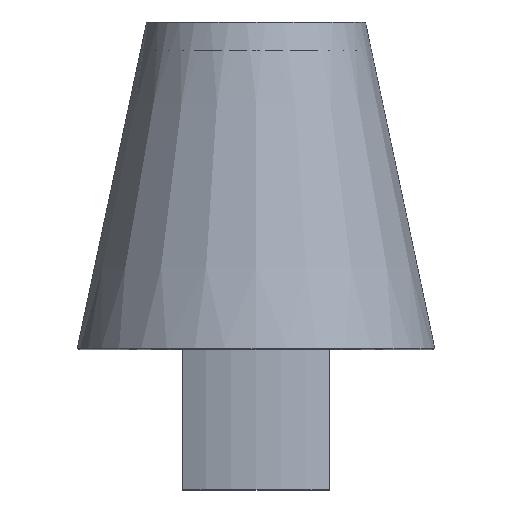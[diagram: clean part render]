
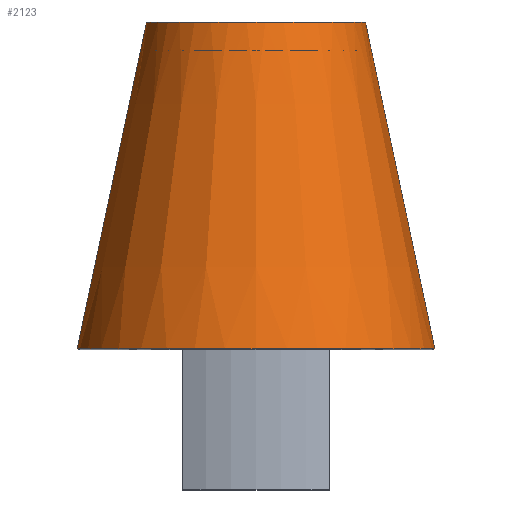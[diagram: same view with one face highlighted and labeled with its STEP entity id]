
A CAD part, top view. The second image highlights one B-rep face of the part: STEP entity #2123.
In plain terms, the highlighted conical face has half-angle 11.993 degrees and reference radius 35.597 mm.
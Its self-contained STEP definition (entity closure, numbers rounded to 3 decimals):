
#29=CONICAL_SURFACE('',#2303,35.597,0.209);
#31=B_SPLINE_CURVE_WITH_KNOTS('',3,(#3294,#3295,#3296,#3297,#3298,#3299,
#3300,#3301),.UNSPECIFIED.,.F.,.F.,(4,2,2,4),(16.018,17.796,
19.765,20.027),.UNSPECIFIED.);
#36=B_SPLINE_CURVE_WITH_KNOTS('',3,(#3337,#3338,#3339,#3340,#3341,#3342,
#3343,#3344),.UNSPECIFIED.,.F.,.F.,(4,2,2,4),(-20.03,-19.765,
-17.796,-16.018),.UNSPECIFIED.);
#191=FACE_OUTER_BOUND('',#332,.T.);
#332=EDGE_LOOP('',(#1564,#1565,#1566,#1567,#1568,#1569));
#490=LINE('',#3359,#689);
#491=LINE('',#3361,#690);
#689=VECTOR('',#2646,304.8);
#690=VECTOR('',#2649,304.8);
#864=CIRCLE('',#2302,54.706);
#865=CIRCLE('',#2304,33.474);
#972=VERTEX_POINT('',#3290);
#974=VERTEX_POINT('',#3293);
#977=VERTEX_POINT('',#3319);
#979=VERTEX_POINT('',#3328);
#982=VERTEX_POINT('',#3353);
#983=VERTEX_POINT('',#3355);
#1186=EDGE_CURVE('',#974,#972,#31,.T.);
#1192=EDGE_CURVE('',#977,#979,#36,.T.);
#1198=EDGE_CURVE('',#983,#982,#864,.T.);
#1200=EDGE_CURVE('',#977,#982,#490,.T.);
#1201=EDGE_CURVE('',#974,#979,#865,.T.);
#1202=EDGE_CURVE('',#983,#972,#491,.T.);
#1564=ORIENTED_EDGE('',*,*,#1198,.T.);
#1565=ORIENTED_EDGE('',*,*,#1200,.F.);
#1566=ORIENTED_EDGE('',*,*,#1192,.T.);
#1567=ORIENTED_EDGE('',*,*,#1201,.F.);
#1568=ORIENTED_EDGE('',*,*,#1186,.T.);
#1569=ORIENTED_EDGE('',*,*,#1202,.F.);
#2123=ADVANCED_FACE('',(#191),#29,.T.);
#2302=AXIS2_PLACEMENT_3D('',#3356,#2641,#2642);
#2303=AXIS2_PLACEMENT_3D('',#3358,#2644,#2645);
#2304=AXIS2_PLACEMENT_3D('',#3360,#2647,#2648);
#2641=DIRECTION('center_axis',(0.,1.,0.));
#2642=DIRECTION('ref_axis',(0.809,0.,0.588));
#2644=DIRECTION('center_axis',(0.,-1.,0.));
#2645=DIRECTION('ref_axis',(0.809,0.,0.588));
#2646=DIRECTION('',(0.208,-0.978,0.));
#2647=DIRECTION('center_axis',(0.,1.,0.));
#2648=DIRECTION('ref_axis',(0.993,0.,0.121));
#2649=DIRECTION('',(0.208,0.978,0.));
#3290=CARTESIAN_POINT('',(-33.68,87.119,37.401));
#3293=CARTESIAN_POINT('',(-33.229,88.091,41.437));
#3294=CARTESIAN_POINT('Ctrl Pts',(-33.229,88.091,41.437));
#3295=CARTESIAN_POINT('Ctrl Pts',(-33.307,88.065,40.846));
#3296=CARTESIAN_POINT('Ctrl Pts',(-33.38,87.989,40.238));
#3297=CARTESIAN_POINT('Ctrl Pts',(-33.524,87.715,38.963));
#3298=CARTESIAN_POINT('Ctrl Pts',(-33.592,87.505,38.296));
#3299=CARTESIAN_POINT('Ctrl Pts',(-33.664,87.195,37.571));
#3300=CARTESIAN_POINT('Ctrl Pts',(-33.672,87.158,37.486));
#3301=CARTESIAN_POINT('Ctrl Pts',(-33.68,87.119,37.401));
#3319=CARTESIAN_POINT('',(33.68,87.118,37.399));
#3328=CARTESIAN_POINT('',(33.229,88.091,41.437));
#3337=CARTESIAN_POINT('Ctrl Pts',(33.68,87.118,37.399));
#3338=CARTESIAN_POINT('Ctrl Pts',(33.672,87.157,37.484));
#3339=CARTESIAN_POINT('Ctrl Pts',(33.664,87.195,37.57));
#3340=CARTESIAN_POINT('Ctrl Pts',(33.592,87.505,38.296));
#3341=CARTESIAN_POINT('Ctrl Pts',(33.524,87.715,38.963));
#3342=CARTESIAN_POINT('Ctrl Pts',(33.38,87.989,40.238));
#3343=CARTESIAN_POINT('Ctrl Pts',(33.307,88.065,40.846));
#3344=CARTESIAN_POINT('Ctrl Pts',(33.229,88.091,41.437));
#3353=CARTESIAN_POINT('',(54.706,-11.861,37.399));
#3355=CARTESIAN_POINT('',(-54.706,-11.861,37.403));
#3356=CARTESIAN_POINT('Origin',(0.,-11.861,
37.399));
#3358=CARTESIAN_POINT('Origin',(0.,78.096,37.399));
#3359=CARTESIAN_POINT('',(33.68,87.118,37.399));
#3360=CARTESIAN_POINT('Origin',(0.,88.091,37.399));
#3361=CARTESIAN_POINT('',(-54.706,-11.861,37.403));
